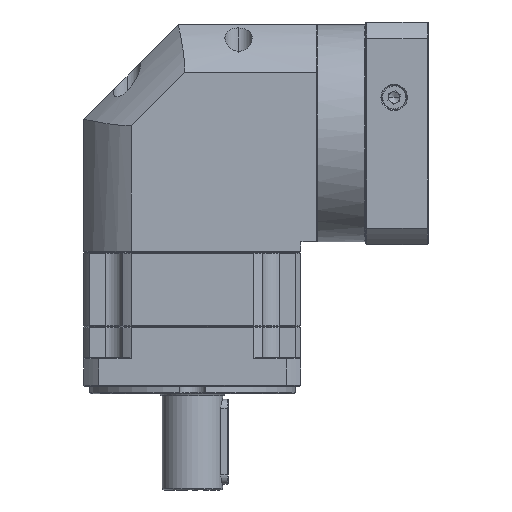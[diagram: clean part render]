
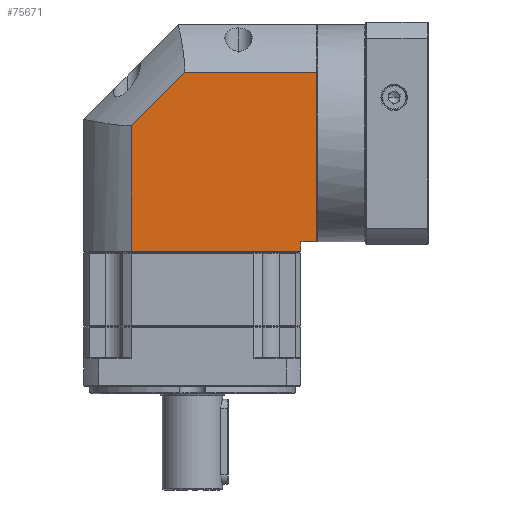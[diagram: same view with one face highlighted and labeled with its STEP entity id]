
A CAD part, front view. The second image highlights one B-rep face of the part: STEP entity #75671.
In plain terms, the highlighted planar face has unit normal (0, -1, 0).
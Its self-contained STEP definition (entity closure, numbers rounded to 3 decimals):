
#434 = CARTESIAN_POINT ( 'NONE',  ( 15.816, 12.334, 19.678 ) ) ;
#1860 = EDGE_CURVE ( 'NONE', #126345, #84782, #107061, .T. ) ;
#2128 = LINE ( 'NONE', #107257, #28635 ) ;
#3372 = EDGE_CURVE ( 'NONE', #53284, #117056, #5351, .T. ) ;
#5351 = LINE ( 'NONE', #66314, #115472 ) ;
#5547 = ORIENTED_EDGE ( 'NONE', *, *, #45770, .F. ) ;
#6087 = DIRECTION ( 'NONE',  ( 0., 0., -1. ) ) ;
#6592 = DIRECTION ( 'NONE',  ( 1., 0., 0. ) ) ;
#9085 = CARTESIAN_POINT ( 'NONE',  ( 114.115, 12.334, -41.883 ) ) ;
#9686 = LINE ( 'NONE', #130597, #67875 ) ;
#15335 = EDGE_LOOP ( 'NONE', ( #5547, #134308, #124123, #61053, #59084, #15964, #47307 ) ) ;
#15964 = ORIENTED_EDGE ( 'NONE', *, *, #76706, .F. ) ;
#25741 = LINE ( 'NONE', #78645, #54181 ) ;
#26359 = DIRECTION ( 'NONE',  ( 1., 0., 0. ) ) ;
#28635 = VECTOR ( 'NONE', #117989, 1000. ) ;
#28971 = DIRECTION ( 'NONE',  ( 0., 0., 1. ) ) ;
#45770 = EDGE_CURVE ( 'NONE', #117056, #116168, #100284, .T. ) ;
#47307 = ORIENTED_EDGE ( 'NONE', *, *, #84084, .F. ) ;
#47793 = EDGE_CURVE ( 'NONE', #84782, #125175, #25741, .T. ) ;
#53284 = VERTEX_POINT ( 'NONE', #9085 ) ;
#54181 = VECTOR ( 'NONE', #26359, 1000. ) ;
#54998 = LINE ( 'NONE', #89248, #75005 ) ;
#57016 = VECTOR ( 'NONE', #85103, 1000. ) ;
#57938 = PLANE ( 'NONE',  #71946 ) ;
#59084 = ORIENTED_EDGE ( 'NONE', *, *, #1860, .F. ) ;
#61053 = ORIENTED_EDGE ( 'NONE', *, *, #47793, .F. ) ;
#61886 = VECTOR ( 'NONE', #6087, 1000. ) ;
#64533 = CARTESIAN_POINT ( 'NONE',  ( 114.115, 12.334, 48.016 ) ) ;
#66314 = CARTESIAN_POINT ( 'NONE',  ( -9.285, 12.334, -41.883 ) ) ;
#67875 = VECTOR ( 'NONE', #86736, 1000. ) ;
#69500 = CARTESIAN_POINT ( 'NONE',  ( 105.715, 12.334, -53.383 ) ) ;
#71946 = AXIS2_PLACEMENT_3D ( 'NONE', #119955, #77519, #6592 ) ;
#73760 = FACE_OUTER_BOUND ( 'NONE', #15335, .T. ) ;
#75005 = VECTOR ( 'NONE', #28971, 1000. ) ;
#75671 = ADVANCED_FACE ( 'NONE', ( #73760 ), #57938, .F. ) ;
#75915 = VERTEX_POINT ( 'NONE', #93229 ) ;
#76706 = EDGE_CURVE ( 'NONE', #75915, #126345, #54998, .T. ) ;
#77519 = DIRECTION ( 'NONE',  ( 0., 1., 0. ) ) ;
#77785 = CARTESIAN_POINT ( 'NONE',  ( 105.715, 12.334, -41.883 ) ) ;
#78645 = CARTESIAN_POINT ( 'NONE',  ( -9.285, 12.334, 48.016 ) ) ;
#84084 = EDGE_CURVE ( 'NONE', #116168, #75915, #9686, .T. ) ;
#84782 = VERTEX_POINT ( 'NONE', #137494 ) ;
#85103 = DIRECTION ( 'NONE',  ( 0.707, 0., 0.707 ) ) ;
#86460 = CARTESIAN_POINT ( 'NONE',  ( 15.816, 12.334, 19.678 ) ) ;
#86736 = DIRECTION ( 'NONE',  ( -1., 0., 0. ) ) ;
#88156 = DIRECTION ( 'NONE',  ( -1., 0., 0. ) ) ;
#89248 = CARTESIAN_POINT ( 'NONE',  ( 15.816, 12.334, -53.383 ) ) ;
#93229 = CARTESIAN_POINT ( 'NONE',  ( 15.816, 12.334, -46.883 ) ) ;
#100284 = LINE ( 'NONE', #69500, #61886 ) ;
#107016 = EDGE_CURVE ( 'NONE', #125175, #53284, #2128, .T. ) ;
#107061 = LINE ( 'NONE', #86460, #57016 ) ;
#107257 = CARTESIAN_POINT ( 'NONE',  ( 114.115, 12.334, -53.383 ) ) ;
#115472 = VECTOR ( 'NONE', #88156, 1000. ) ;
#116168 = VERTEX_POINT ( 'NONE', #118884 ) ;
#117056 = VERTEX_POINT ( 'NONE', #77785 ) ;
#117989 = DIRECTION ( 'NONE',  ( 0., 0., -1. ) ) ;
#118884 = CARTESIAN_POINT ( 'NONE',  ( 105.715, 12.334, -46.883 ) ) ;
#119955 = CARTESIAN_POINT ( 'NONE',  ( -9.285, 12.334, -53.383 ) ) ;
#124123 = ORIENTED_EDGE ( 'NONE', *, *, #107016, .F. ) ;
#125175 = VERTEX_POINT ( 'NONE', #64533 ) ;
#126345 = VERTEX_POINT ( 'NONE', #434 ) ;
#130597 = CARTESIAN_POINT ( 'NONE',  ( -9.285, 12.334, -46.883 ) ) ;
#134308 = ORIENTED_EDGE ( 'NONE', *, *, #3372, .F. ) ;
#137494 = CARTESIAN_POINT ( 'NONE',  ( 44.154, 12.334, 48.016 ) ) ;
